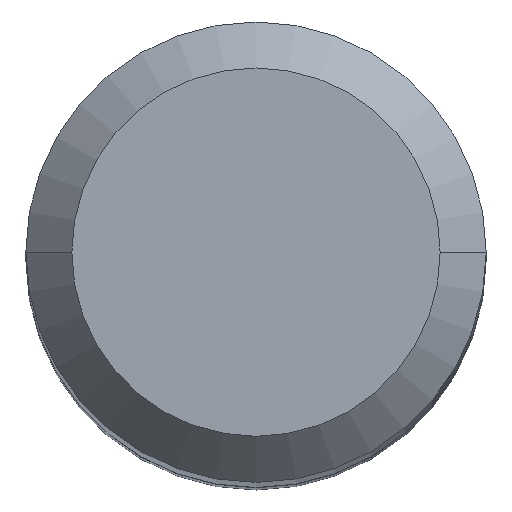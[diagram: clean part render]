
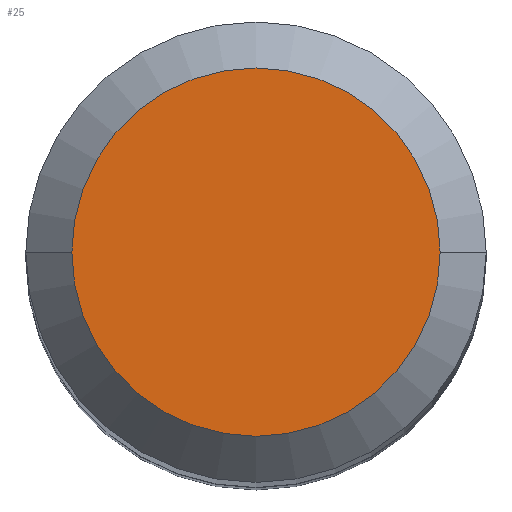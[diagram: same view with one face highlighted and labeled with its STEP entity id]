
A CAD part, top view. The second image highlights one B-rep face of the part: STEP entity #25.
In plain terms, the highlighted planar face has unit normal (0, 0, 1).
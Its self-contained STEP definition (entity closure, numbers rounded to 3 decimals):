
#6 = EDGE_CURVE ( 'NONE', #188, #444, #402, .T. ) ;
#25 = ADVANCED_FACE ( 'NONE', ( #349 ), #291, .T. ) ;
#27 = CIRCLE ( 'NONE', #154, 2.4 ) ;
#114 = CARTESIAN_POINT ( 'NONE',  ( 2.4, 0., 0. ) ) ;
#118 = ORIENTED_EDGE ( 'NONE', *, *, #513, .F. ) ;
#152 = DIRECTION ( 'NONE',  ( -1., 0., 0. ) ) ;
#154 = AXIS2_PLACEMENT_3D ( 'NONE', #606, #610, #152 ) ;
#188 = VERTEX_POINT ( 'NONE', #114 ) ;
#200 = DIRECTION ( 'NONE',  ( 0., 0., 1. ) ) ;
#201 = CARTESIAN_POINT ( 'NONE',  ( -2.4, 0., 0. ) ) ;
#291 = PLANE ( 'NONE',  #581 ) ;
#347 = CARTESIAN_POINT ( 'NONE',  ( 0., 2.4, 0. ) ) ;
#349 = FACE_OUTER_BOUND ( 'NONE', #574, .T. ) ;
#393 = DIRECTION ( 'NONE',  ( 1., 0., 0. ) ) ;
#402 = CIRCLE ( 'NONE', #638, 2.4 ) ;
#444 = VERTEX_POINT ( 'NONE', #201 ) ;
#462 = CARTESIAN_POINT ( 'NONE',  ( 0., 0., 0. ) ) ;
#502 = DIRECTION ( 'NONE',  ( -1., 0., 0. ) ) ;
#513 = EDGE_CURVE ( 'NONE', #444, #188, #27, .T. ) ;
#574 = EDGE_LOOP ( 'NONE', ( #118, #623 ) ) ;
#581 = AXIS2_PLACEMENT_3D ( 'NONE', #347, #200, #393 ) ;
#593 = DIRECTION ( 'NONE',  ( 0., 0., -1. ) ) ;
#606 = CARTESIAN_POINT ( 'NONE',  ( 0., 0., 0. ) ) ;
#610 = DIRECTION ( 'NONE',  ( 0., 0., -1. ) ) ;
#623 = ORIENTED_EDGE ( 'NONE', *, *, #6, .F. ) ;
#638 = AXIS2_PLACEMENT_3D ( 'NONE', #462, #593, #502 ) ;
